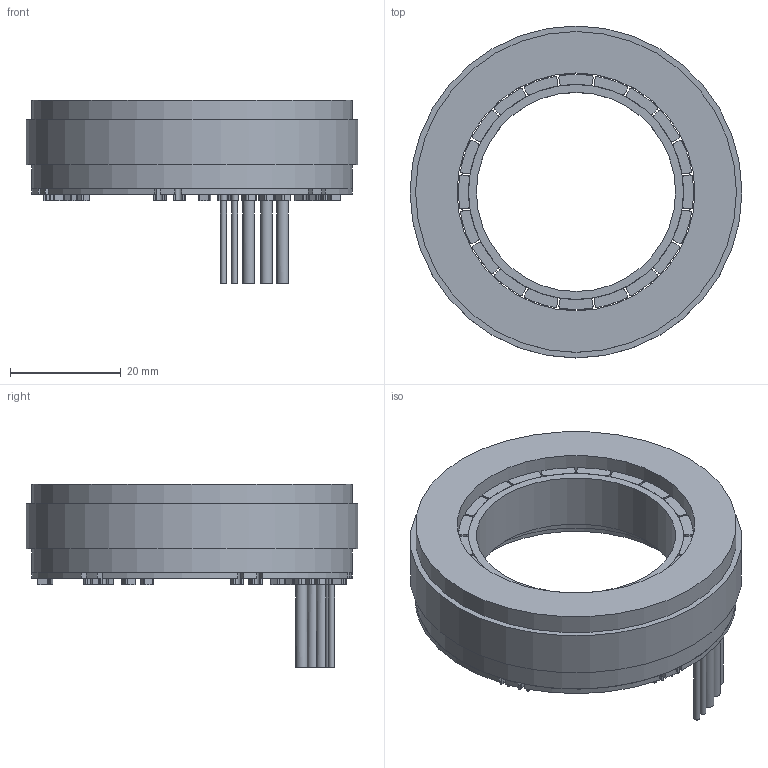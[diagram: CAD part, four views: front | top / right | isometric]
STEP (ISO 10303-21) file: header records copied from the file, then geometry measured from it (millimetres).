
FILE_DESCRIPTION( ('This file contains a STEP AP42 implementation' ,'as created by ZW3D STEP Interface translator.') ,'2;1' );
FILE_NAME( '6008.stp' ,'26 123.164929', (''), ('ZWCAD Software Co.'), 'Version 1.0', 'ZW3D to STEP translator', '' );
FILE_SCHEMA(('AUTOMOTIVE_DESIGN { 1 0 10303 214 1 1 1 1 }'));
Length unit declared in the file: millimetre
Products named in the file (4): 0; 6008; 6008隅赽; 6008蛌赽
Assembly tree (2 placements, depth 2):
  0
  6008
    6008隅赽
    6008蛌赽
Bounding box: 60 x 60 x 33.2 mm (x, y, z)
Volume: 25813.1 mm3; surface area: 22028.6 mm2
Topology: 25 solids, 25 shells, 413 faces, 1056 edges, 700 vertices
Faces by surface type: cylinder 232, plane 181
Full cylindrical faces by diameter (mm): 1.1 x2, 1.2 x2, 2.1 x3, 36 x1, 38.85 x1, 43 x3, 43.65 x1, 58 x2, 60 x1
Entity records: 13164 total; most frequent: DIRECTION 2372, CARTESIAN_POINT 2176, ORIENTED_EDGE 2112, EDGE_CURVE 1056, AXIS2_PLACEMENT_3D 896, VERTEX_POINT 700, VECTOR 580, LINE 580
